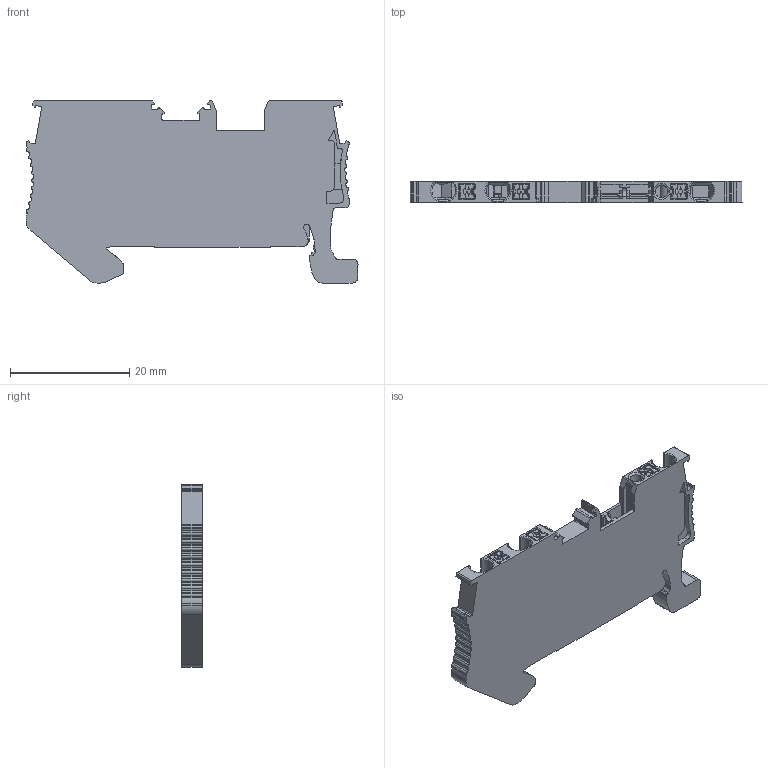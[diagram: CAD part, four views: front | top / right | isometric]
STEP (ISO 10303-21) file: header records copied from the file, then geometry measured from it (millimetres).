
FILE_DESCRIPTION((''),'2;1');
FILE_NAME('UPT-1_5-1-2PE','2024-03-29T15:32:51',('Administrator'),(''),'CREO PARAMETRIC BY PTC INC, 2018050','CREO PARAMETRIC BY PTC INC, 2018050','');
FILE_SCHEMA(('CONFIG_CONTROL_DESIGN'));
Length unit declared in the file: millimetre
Products named in the file (1): UPT-1_5-1-2PE
Bounding box: 55.6 x 3.5 x 30.5 mm (x, y, z)
Volume: 3969.5 mm3; surface area: 4592.6 mm2
Topology: 1 solids, 16 shells, 1340 faces, 3672 edges, 2322 vertices
Faces by surface type: plane 639, cylinder 512, torus 66, cone 49, sphere 48, bspline 14, extrusion 12
Entity records: 44690 total; most frequent: CARTESIAN_POINT 10530, ORIENTED_EDGE 7254, DIRECTION 7151, EDGE_CURVE 3627, AXIS2_PLACEMENT_3D 2442, VERTEX_POINT 2322, VECTOR 2267, LINE 2255
